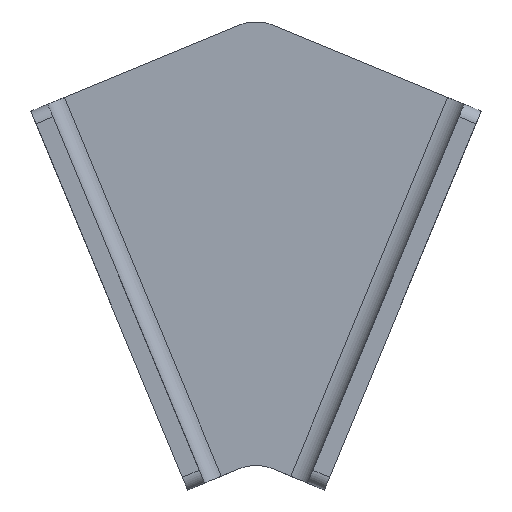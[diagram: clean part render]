
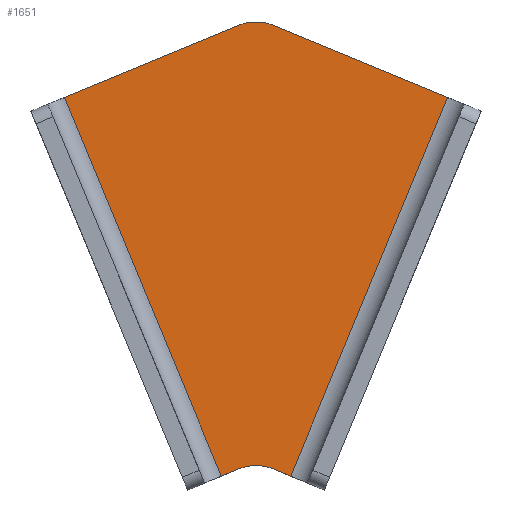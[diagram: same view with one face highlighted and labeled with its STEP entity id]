
A CAD part, top view. The second image highlights one B-rep face of the part: STEP entity #1651.
In plain terms, the highlighted planar face has unit normal (0, 0, 1).
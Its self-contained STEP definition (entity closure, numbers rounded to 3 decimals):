
#6 = CARTESIAN_POINT ( 'NONE',  ( 18.827, 102.043, 4. ) ) ;
#43 = DIRECTION ( 'NONE',  ( 0., 0., 1. ) ) ;
#80 = AXIS2_PLACEMENT_3D ( 'NONE', #1688, #503, #1428 ) ;
#120 = CARTESIAN_POINT ( 'NONE',  ( -27.05, 86.211, 4. ) ) ;
#154 = CIRCLE ( 'NONE', #1135, 10. ) ;
#227 = CARTESIAN_POINT ( 'NONE',  ( 64.442, 83.149, 4. ) ) ;
#258 = EDGE_CURVE ( 'NONE', #738, #561, #1697, .T. ) ;
#265 = DIRECTION ( 'NONE',  ( 0., 0., -1. ) ) ;
#272 = LINE ( 'NONE', #1064, #1638 ) ;
#279 = ORIENTED_EDGE ( 'NONE', *, *, #295, .T. ) ;
#295 = EDGE_CURVE ( 'NONE', #561, #484, #947, .T. ) ;
#319 = VECTOR ( 'NONE', #1004, 1000. ) ;
#360 = CARTESIAN_POINT ( 'NONE',  ( 30., 0., 4. ) ) ;
#374 = VERTEX_POINT ( 'NONE', #741 ) ;
#389 = EDGE_LOOP ( 'NONE', ( #1036, #898, #1492, #826, #789, #1280, #1092, #279 ) ) ;
#394 = CARTESIAN_POINT ( 'NONE',  ( 15., -4.611, 4. ) ) ;
#397 = CARTESIAN_POINT ( 'NONE',  ( 57.05, 86.211, 4. ) ) ;
#425 = CARTESIAN_POINT ( 'NONE',  ( 11.173, 4.628, 4. ) ) ;
#484 = VERTEX_POINT ( 'NONE', #816 ) ;
#503 = DIRECTION ( 'NONE',  ( 0., 0., 1. ) ) ;
#515 = VECTOR ( 'NONE', #1436, 1000. ) ;
#552 = DIRECTION ( 'NONE',  ( 0.383, 0.924, 0. ) ) ;
#553 = LINE ( 'NONE', #227, #1523 ) ;
#561 = VERTEX_POINT ( 'NONE', #425 ) ;
#623 = AXIS2_PLACEMENT_3D ( 'NONE', #394, #265, #1722 ) ;
#738 = VERTEX_POINT ( 'NONE', #1314 ) ;
#741 = CARTESIAN_POINT ( 'NONE',  ( 11.173, 102.043, 4. ) ) ;
#758 = VECTOR ( 'NONE', #1563, 1000. ) ;
#767 = CARTESIAN_POINT ( 'NONE',  ( 7.391, 3.061, 4. ) ) ;
#789 = ORIENTED_EDGE ( 'NONE', *, *, #1342, .T. ) ;
#816 = CARTESIAN_POINT ( 'NONE',  ( 18.827, 4.628, 4. ) ) ;
#826 = ORIENTED_EDGE ( 'NONE', *, *, #829, .T. ) ;
#829 = EDGE_CURVE ( 'NONE', #1612, #374, #154, .T. ) ;
#840 = CARTESIAN_POINT ( 'NONE',  ( 15., 92.805, 4. ) ) ;
#857 = LINE ( 'NONE', #767, #515 ) ;
#892 = PLANE ( 'NONE',  #80 ) ;
#898 = ORIENTED_EDGE ( 'NONE', *, *, #1442, .T. ) ;
#947 = CIRCLE ( 'NONE', #623, 10. ) ;
#968 = DIRECTION ( 'NONE',  ( 1., 0., 0. ) ) ;
#993 = VERTEX_POINT ( 'NONE', #1560 ) ;
#1004 = DIRECTION ( 'NONE',  ( 0.924, 0.383, 0. ) ) ;
#1036 = ORIENTED_EDGE ( 'NONE', *, *, #1658, .T. ) ;
#1064 = CARTESIAN_POINT ( 'NONE',  ( 18.216, -7.545, 4. ) ) ;
#1092 = ORIENTED_EDGE ( 'NONE', *, *, #258, .T. ) ;
#1103 = LINE ( 'NONE', #360, #758 ) ;
#1135 = AXIS2_PLACEMENT_3D ( 'NONE', #840, #43, #968 ) ;
#1154 = FACE_OUTER_BOUND ( 'NONE', #389, .T. ) ;
#1177 = CARTESIAN_POINT ( 'NONE',  ( -34.442, 83.149, 4. ) ) ;
#1211 = EDGE_CURVE ( 'NONE', #1357, #1612, #553, .T. ) ;
#1280 = ORIENTED_EDGE ( 'NONE', *, *, #1281, .T. ) ;
#1281 = EDGE_CURVE ( 'NONE', #1301, #738, #857, .T. ) ;
#1301 = VERTEX_POINT ( 'NONE', #120 ) ;
#1314 = CARTESIAN_POINT ( 'NONE',  ( 7.391, 3.061, 4. ) ) ;
#1342 = EDGE_CURVE ( 'NONE', #374, #1301, #1528, .T. ) ;
#1345 = CARTESIAN_POINT ( 'NONE',  ( 0., 0., 4. ) ) ;
#1357 = VERTEX_POINT ( 'NONE', #397 ) ;
#1428 = DIRECTION ( 'NONE',  ( 1., 0., 0. ) ) ;
#1436 = DIRECTION ( 'NONE',  ( 0.383, -0.924, 0. ) ) ;
#1442 = EDGE_CURVE ( 'NONE', #993, #1357, #272, .T. ) ;
#1489 = VECTOR ( 'NONE', #1715, 1000. ) ;
#1492 = ORIENTED_EDGE ( 'NONE', *, *, #1211, .T. ) ;
#1523 = VECTOR ( 'NONE', #1551, 1000. ) ;
#1528 = LINE ( 'NONE', #1177, #1489 ) ;
#1551 = DIRECTION ( 'NONE',  ( -0.924, 0.383, 0. ) ) ;
#1560 = CARTESIAN_POINT ( 'NONE',  ( 22.609, 3.061, 4. ) ) ;
#1563 = DIRECTION ( 'NONE',  ( 0.924, -0.383, 0. ) ) ;
#1612 = VERTEX_POINT ( 'NONE', #6 ) ;
#1638 = VECTOR ( 'NONE', #552, 1000. ) ;
#1651 = ADVANCED_FACE ( 'NONE', ( #1154 ), #892, .T. ) ;
#1658 = EDGE_CURVE ( 'NONE', #484, #993, #1103, .T. ) ;
#1688 = CARTESIAN_POINT ( 'NONE',  ( 0., 0., 4. ) ) ;
#1697 = LINE ( 'NONE', #1345, #319 ) ;
#1715 = DIRECTION ( 'NONE',  ( -0.924, -0.383, 0. ) ) ;
#1722 = DIRECTION ( 'NONE',  ( 1., 0., 0. ) ) ;
